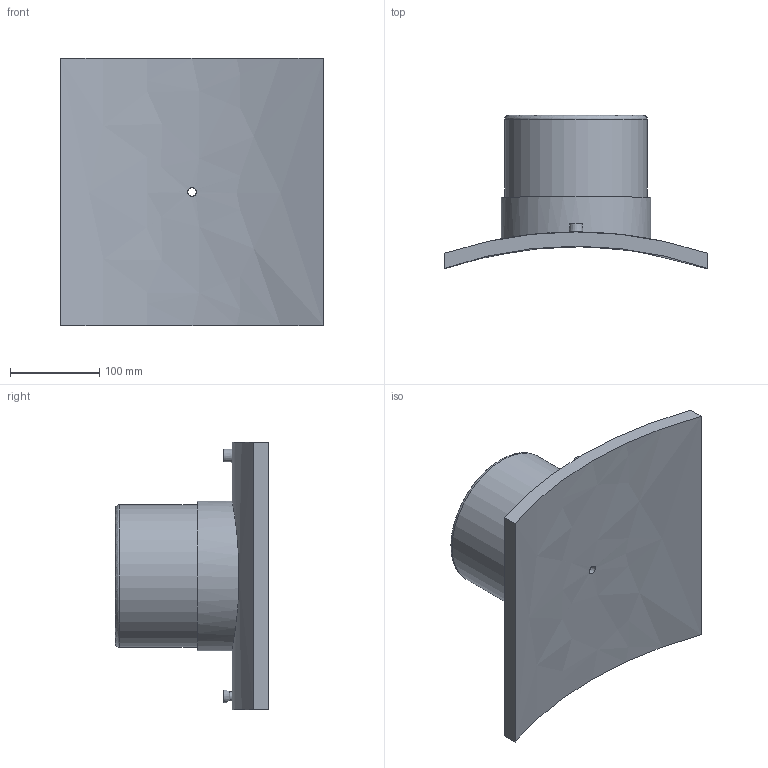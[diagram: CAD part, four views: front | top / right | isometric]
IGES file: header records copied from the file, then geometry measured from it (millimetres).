
Global section: file name: 495803900160T.ipt; native system: Autodesk Inventor 2019; preprocessor: unknown; author: KIM; date: 20210225.095233; units: millimetre
Bounding box: 295 x 171.86 x 300 mm (x, y, z)
Volume: 2503052.7 mm3; surface area: 328388.7 mm2
Topology: 2 solids, 2 shells, 29 faces, 54 edges, 38 vertices
Faces by surface type: plane 13, revolution 7, cylinder 7, cone 2
Full cylindrical faces by diameter (mm): 4 x2, 16 x1, 160 x1, 168 x1
